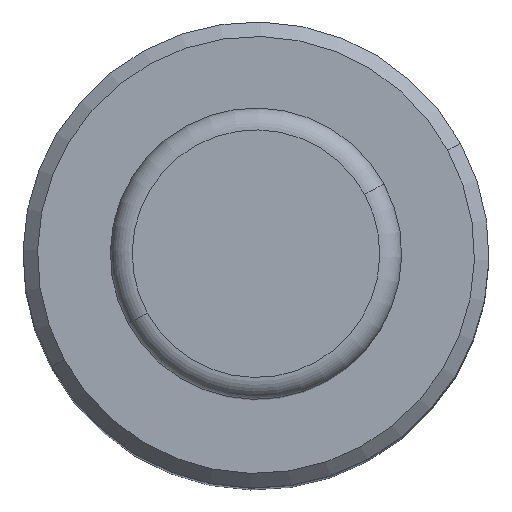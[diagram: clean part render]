
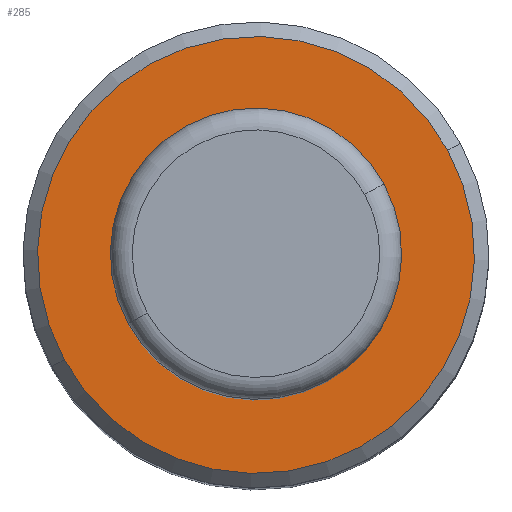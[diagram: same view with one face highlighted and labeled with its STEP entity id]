
A CAD part, top view. The second image highlights one B-rep face of the part: STEP entity #285.
In plain terms, the highlighted planar face has unit normal (0, 0, 1).
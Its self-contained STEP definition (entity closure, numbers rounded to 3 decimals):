
#57=CARTESIAN_POINT('Axis2P3D Location',(0.,0.,81.)) ;
#61=CARTESIAN_POINT('Vertex',(13.164,7.191,81.)) ;
#63=CARTESIAN_POINT('Vertex',(-13.164,-7.191,81.)) ;
#92=CARTESIAN_POINT('Axis2P3D Location',(0.,0.,81.)) ;
#276=CARTESIAN_POINT('Axis2P3D Location',(0.,0.,81.)) ;
#58=DIRECTION('Axis2P3D Direction',(0.,0.,-1.)) ;
#93=DIRECTION('Axis2P3D Direction',(0.,0.,-1.)) ;
#277=DIRECTION('Axis2P3D Direction',(0.,0.,1.)) ;
#278=DIRECTION('Axis2P3D XDirection',(1.,0.,0.)) ;
#59=AXIS2_PLACEMENT_3D('Circle Axis2P3D',#57,#58,$) ;
#94=AXIS2_PLACEMENT_3D('Circle Axis2P3D',#92,#93,$) ;
#279=AXIS2_PLACEMENT_3D('Plane Axis2P3D',#276,#277,#278) ;
#282=ORIENTED_EDGE('',*,*,#65,.T.) ;
#283=ORIENTED_EDGE('',*,*,#96,.T.) ;
#285=ADVANCED_FACE('',(#284),#280,.T.) ;
#60=CIRCLE('generated circle',#59,15.) ;
#95=CIRCLE('generated circle',#94,15.) ;
#65=EDGE_CURVE('',#62,#64,#60,.F.) ;
#96=EDGE_CURVE('',#64,#62,#95,.F.) ;
#281=EDGE_LOOP('',(#282,#283)) ;
#284=FACE_OUTER_BOUND('',#281,.T.) ;
#280=PLANE('Plane',#279) ;
#62=VERTEX_POINT('',#61) ;
#64=VERTEX_POINT('',#63) ;
